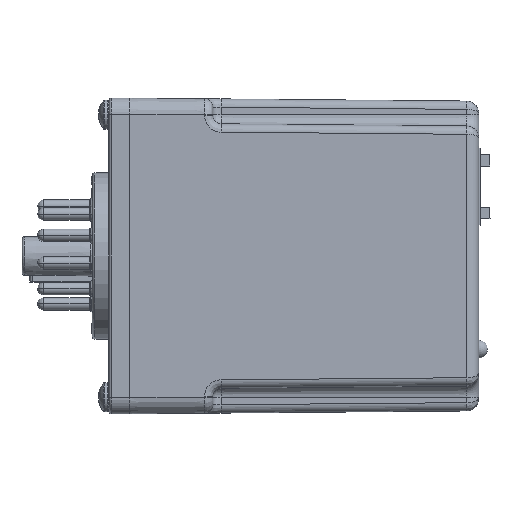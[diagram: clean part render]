
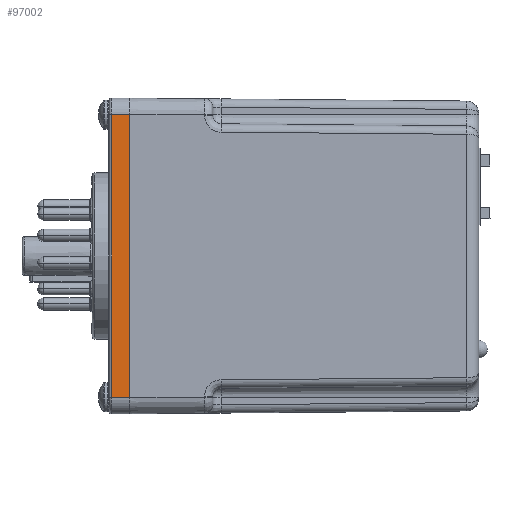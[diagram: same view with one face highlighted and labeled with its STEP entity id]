
A CAD part, left-side view. The second image highlights one B-rep face of the part: STEP entity #97002.
In plain terms, the highlighted planar face has unit normal (-1, 0, 0).
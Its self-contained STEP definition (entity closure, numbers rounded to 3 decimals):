
#75119 = CYLINDRICAL_SURFACE('',#75120,0.508);
#75120 = AXIS2_PLACEMENT_3D('',#75121,#75122,#75123);
#75121 = CARTESIAN_POINT('',(-21.717,49.479,-30.163));
#75122 = DIRECTION('',(0.,0.,1.));
#75123 = DIRECTION('',(1.,0.,0.));
#75706 = PLANE('',#75707);
#75707 = AXIS2_PLACEMENT_3D('',#75708,#75709,#75710);
#75708 = CARTESIAN_POINT('',(-22.225,46.025,-30.163));
#75709 = DIRECTION('',(0.,1.,0.));
#75710 = DIRECTION('',(1.,0.,-0.));
#82195 = VERTEX_POINT('',#82196);
#82196 = CARTESIAN_POINT('',(-22.225,46.025,26.988));
#82215 = CYLINDRICAL_SURFACE('',#82216,3.175);
#82216 = AXIS2_PLACEMENT_3D('',#82217,#82218,#82219);
#82217 = CARTESIAN_POINT('',(-19.05,46.025,26.988));
#82218 = DIRECTION('',(0.,1.,0.));
#82219 = DIRECTION('',(0.,0.,-1.));
#82227 = EDGE_CURVE('',#82228,#82195,#82230,.T.);
#82228 = VERTEX_POINT('',#82229);
#82229 = CARTESIAN_POINT('',(-22.225,46.025,-26.988));
#82230 = SURFACE_CURVE('',#82231,(#82235,#82242),.PCURVE_S1.);
#82231 = LINE('',#82232,#82233);
#82232 = CARTESIAN_POINT('',(-22.225,46.025,-30.163));
#82233 = VECTOR('',#82234,1.);
#82234 = DIRECTION('',(0.,-0.,1.));
#82235 = PCURVE('',#75706,#82236);
#82236 = DEFINITIONAL_REPRESENTATION('',(#82237),#82241);
#82237 = LINE('',#82238,#82239);
#82238 = CARTESIAN_POINT('',(0.,0.));
#82239 = VECTOR('',#82240,1.);
#82240 = DIRECTION('',(0.,-1.));
#82241 = ( GEOMETRIC_REPRESENTATION_CONTEXT(2) 
PARAMETRIC_REPRESENTATION_CONTEXT() REPRESENTATION_CONTEXT('2D SPACE',''
  ) );
#82242 = PCURVE('',#82243,#82248);
#82243 = PLANE('',#82244);
#82244 = AXIS2_PLACEMENT_3D('',#82245,#82246,#82247);
#82245 = CARTESIAN_POINT('',(-22.225,46.025,-30.163));
#82246 = DIRECTION('',(1.,0.,0.));
#82247 = DIRECTION('',(0.,0.,-1.));
#82248 = DEFINITIONAL_REPRESENTATION('',(#82249),#82253);
#82249 = LINE('',#82250,#82251);
#82250 = CARTESIAN_POINT('',(0.,0.));
#82251 = VECTOR('',#82252,1.);
#82252 = DIRECTION('',(-1.,0.));
#82253 = ( GEOMETRIC_REPRESENTATION_CONTEXT(2) 
PARAMETRIC_REPRESENTATION_CONTEXT() REPRESENTATION_CONTEXT('2D SPACE',''
  ) );
#82274 = CYLINDRICAL_SURFACE('',#82275,3.175);
#82275 = AXIS2_PLACEMENT_3D('',#82276,#82277,#82278);
#82276 = CARTESIAN_POINT('',(-19.05,49.987,-26.988));
#82277 = DIRECTION('',(0.,-1.,0.));
#82278 = DIRECTION('',(0.,0.,1.));
#97002 = ADVANCED_FACE('',(#97003),#82243,.F.);
#97003 = FACE_BOUND('',#97004,.T.);
#97004 = EDGE_LOOP('',(#97005,#97028,#97051,#97072));
#97005 = ORIENTED_EDGE('',*,*,#97006,.T.);
#97006 = EDGE_CURVE('',#82195,#97007,#97009,.T.);
#97007 = VERTEX_POINT('',#97008);
#97008 = CARTESIAN_POINT('',(-22.225,49.479,26.988));
#97009 = SURFACE_CURVE('',#97010,(#97014,#97021),.PCURVE_S1.);
#97010 = LINE('',#97011,#97012);
#97011 = CARTESIAN_POINT('',(-22.225,46.025,26.988));
#97012 = VECTOR('',#97013,1.);
#97013 = DIRECTION('',(0.,1.,0.));
#97014 = PCURVE('',#82243,#97015);
#97015 = DEFINITIONAL_REPRESENTATION('',(#97016),#97020);
#97016 = LINE('',#97017,#97018);
#97017 = CARTESIAN_POINT('',(-57.15,0.));
#97018 = VECTOR('',#97019,1.);
#97019 = DIRECTION('',(0.,1.));
#97020 = ( GEOMETRIC_REPRESENTATION_CONTEXT(2) 
PARAMETRIC_REPRESENTATION_CONTEXT() REPRESENTATION_CONTEXT('2D SPACE',''
  ) );
#97021 = PCURVE('',#82215,#97022);
#97022 = DEFINITIONAL_REPRESENTATION('',(#97023),#97027);
#97023 = LINE('',#97024,#97025);
#97024 = CARTESIAN_POINT('',(1.571,0.));
#97025 = VECTOR('',#97026,1.);
#97026 = DIRECTION('',(0.,1.));
#97027 = ( GEOMETRIC_REPRESENTATION_CONTEXT(2) 
PARAMETRIC_REPRESENTATION_CONTEXT() REPRESENTATION_CONTEXT('2D SPACE',''
  ) );
#97028 = ORIENTED_EDGE('',*,*,#97029,.T.);
#97029 = EDGE_CURVE('',#97007,#97030,#97032,.T.);
#97030 = VERTEX_POINT('',#97031);
#97031 = CARTESIAN_POINT('',(-22.225,49.479,-26.988));
#97032 = SURFACE_CURVE('',#97033,(#97037,#97044),.PCURVE_S1.);
#97033 = LINE('',#97034,#97035);
#97034 = CARTESIAN_POINT('',(-22.225,49.479,-30.163));
#97035 = VECTOR('',#97036,1.);
#97036 = DIRECTION('',(0.,0.,-1.));
#97037 = PCURVE('',#82243,#97038);
#97038 = DEFINITIONAL_REPRESENTATION('',(#97039),#97043);
#97039 = LINE('',#97040,#97041);
#97040 = CARTESIAN_POINT('',(0.,3.454));
#97041 = VECTOR('',#97042,1.);
#97042 = DIRECTION('',(1.,0.));
#97043 = ( GEOMETRIC_REPRESENTATION_CONTEXT(2) 
PARAMETRIC_REPRESENTATION_CONTEXT() REPRESENTATION_CONTEXT('2D SPACE',''
  ) );
#97044 = PCURVE('',#75119,#97045);
#97045 = DEFINITIONAL_REPRESENTATION('',(#97046),#97050);
#97046 = LINE('',#97047,#97048);
#97047 = CARTESIAN_POINT('',(3.142,0.));
#97048 = VECTOR('',#97049,1.);
#97049 = DIRECTION('',(0.,-1.));
#97050 = ( GEOMETRIC_REPRESENTATION_CONTEXT(2) 
PARAMETRIC_REPRESENTATION_CONTEXT() REPRESENTATION_CONTEXT('2D SPACE',''
  ) );
#97051 = ORIENTED_EDGE('',*,*,#97052,.T.);
#97052 = EDGE_CURVE('',#97030,#82228,#97053,.T.);
#97053 = SURFACE_CURVE('',#97054,(#97058,#97065),.PCURVE_S1.);
#97054 = LINE('',#97055,#97056);
#97055 = CARTESIAN_POINT('',(-22.225,46.025,-26.988));
#97056 = VECTOR('',#97057,1.);
#97057 = DIRECTION('',(0.,-1.,0.));
#97058 = PCURVE('',#82243,#97059);
#97059 = DEFINITIONAL_REPRESENTATION('',(#97060),#97064);
#97060 = LINE('',#97061,#97062);
#97061 = CARTESIAN_POINT('',(-3.175,0.));
#97062 = VECTOR('',#97063,1.);
#97063 = DIRECTION('',(0.,-1.));
#97064 = ( GEOMETRIC_REPRESENTATION_CONTEXT(2) 
PARAMETRIC_REPRESENTATION_CONTEXT() REPRESENTATION_CONTEXT('2D SPACE',''
  ) );
#97065 = PCURVE('',#82274,#97066);
#97066 = DEFINITIONAL_REPRESENTATION('',(#97067),#97071);
#97067 = LINE('',#97068,#97069);
#97068 = CARTESIAN_POINT('',(1.571,3.962));
#97069 = VECTOR('',#97070,1.);
#97070 = DIRECTION('',(0.,1.));
#97071 = ( GEOMETRIC_REPRESENTATION_CONTEXT(2) 
PARAMETRIC_REPRESENTATION_CONTEXT() REPRESENTATION_CONTEXT('2D SPACE',''
  ) );
#97072 = ORIENTED_EDGE('',*,*,#82227,.T.);
